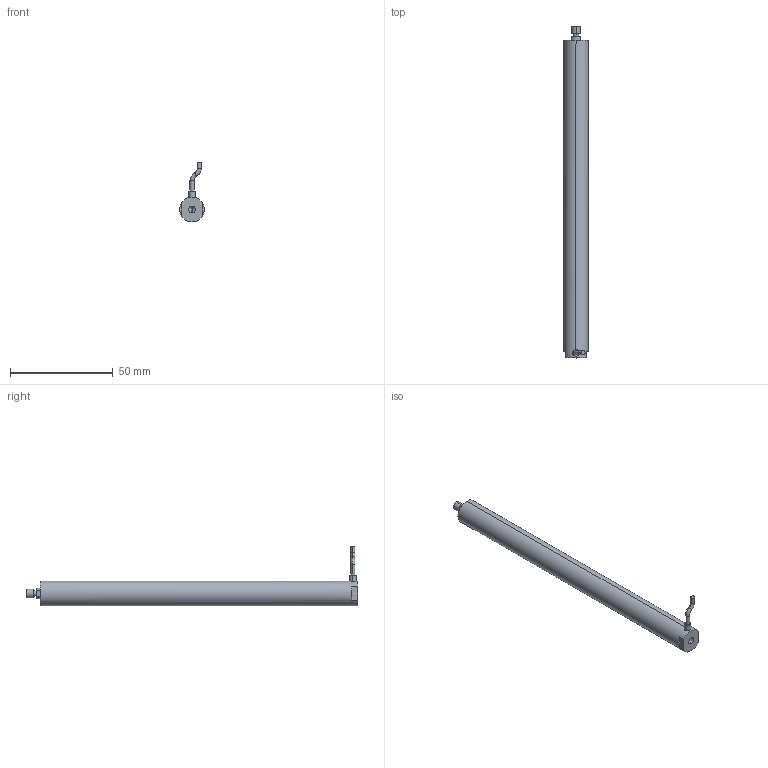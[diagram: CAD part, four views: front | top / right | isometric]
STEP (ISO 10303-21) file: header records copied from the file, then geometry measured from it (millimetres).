
FILE_DESCRIPTION (( 'STEP AP203' ), '1' );
FILE_NAME ('俋蹟恇宒160VS12.STEP', '2020-08-19T06:02:18', ( 'User' ), ( 'china' ), 'SwSTEP 2.0', 'SolidWorks 2016', '' );
FILE_SCHEMA (( 'CONFIG_CONTROL_DESIGN' ));
Length unit declared in the file: millimetre
Products named in the file (1): 俋蹟恇宒160VS12
Bounding box: 12 x 161.6 x 29.08 mm (x, y, z)
Volume: 17564.9 mm3; surface area: 6350.2 mm2
Topology: 1 solids, 1 shells, 940 faces, 2522 edges, 1677 vertices
Faces by surface type: bspline 513, plane 314, cylinder 107, torus 4, cone 2
Entity records: 44002 total; most frequent: CARTESIAN_POINT 24982, ORIENTED_EDGE 5040, EDGE_CURVE 2520, DIRECTION 1969, B_SPLINE_CURVE_WITH_KNOTS 1685, VERTEX_POINT 1677, EDGE_LOOP 1035, ADVANCED_FACE 940
